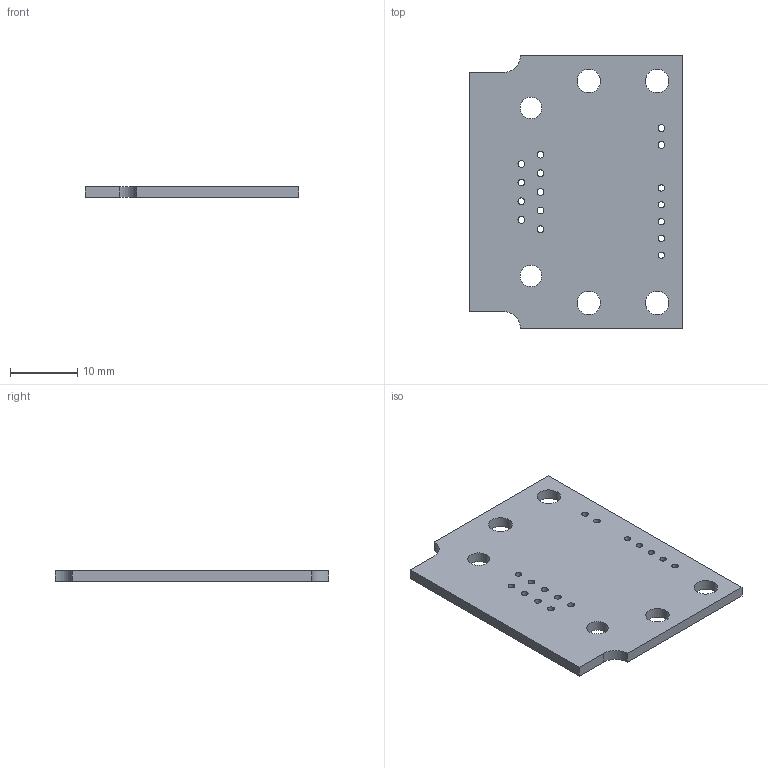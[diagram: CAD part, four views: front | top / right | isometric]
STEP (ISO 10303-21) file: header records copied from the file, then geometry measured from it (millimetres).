
FILE_DESCRIPTION(('KiCad electronic assembly'),'2;1');
FILE_NAME('DSUB-9_Breakout.step','2025-02-18T10:19:44',('Pcbnew'),( 'Kicad'),'Open CASCADE STEP processor 7.7','KiCad to STEP converter' ,'Unknown');
FILE_SCHEMA(('AUTOMOTIVE_DESIGN { 1 0 10303 214 1 1 1 1 }'));
Length unit declared in the file: millimetre
Products named in the file (2): DSUB-9_Breakout 1; _autosave-DSUB-9_Breakout_PCB
Assembly tree (1 placements, depth 2):
  DSUB-9_Breakout 1
    _autosave-DSUB-9_Breakout_PCB
Bounding box: 31.75 x 40.64 x 1.6 mm (x, y, z)
Volume: 1900.2 mm3; surface area: 2785.1 mm2
Topology: 1 solids, 1 shells, 32 faces, 90 edges, 60 vertices
Faces by surface type: cylinder 24, plane 8
Full cylindrical faces by diameter (mm): 0.95 x5, 1 x11, 3.2 x2, 3.5 x4
Entity records: 1187 total; most frequent: DIRECTION 206, CARTESIAN_POINT 184, ORIENTED_EDGE 180, EDGE_CURVE 90, AXIS2_PLACEMENT_3D 82, FACE_BOUND 76, EDGE_LOOP 76, VERTEX_POINT 60
